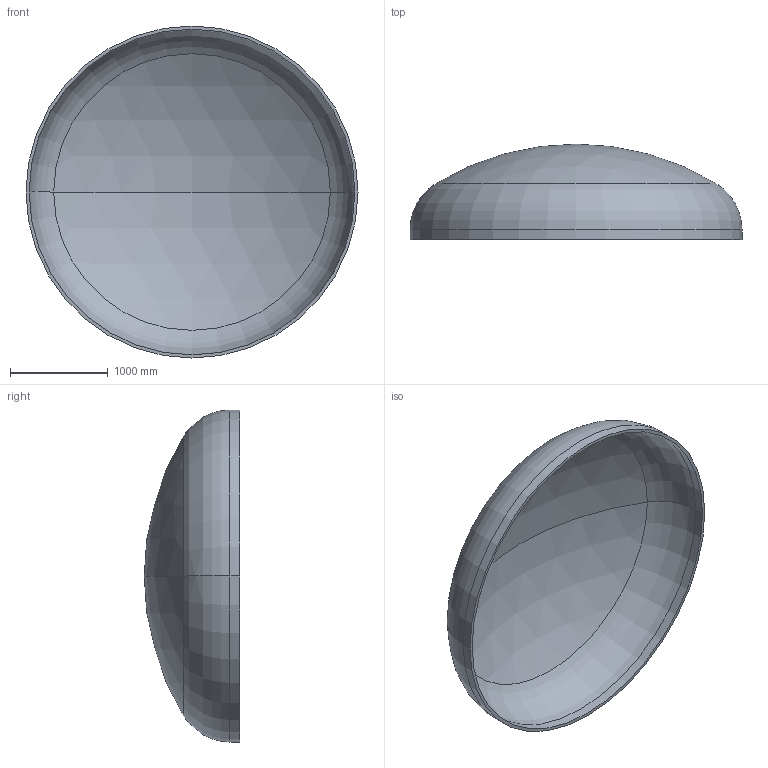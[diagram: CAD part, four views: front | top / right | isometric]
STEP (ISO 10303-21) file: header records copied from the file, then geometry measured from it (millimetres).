
FILE_DESCRIPTION (( 'STEP AP203' ), '1' );
FILE_NAME ('DIN 28013 Korbbogenform_-_Boden DIN 28013 - 3400 x 100 - I - s=32.step', '2016-07-01T19:23:57', ( '' ), ( '' ), 'SwSTEP 2.0', 'SolidWorks 2013', '' );
FILE_SCHEMA (( 'CONFIG_CONTROL_DESIGN' ));
Length unit declared in the file: millimetre
Products named in the file (1): DIN 28013 Korbbogenform_-_Boden DIN 28013 - 3400 x 100 - I - s=32
Bounding box: 3400 x 978.08 x 3400 mm (x, y, z)
Volume: 431476226.6 mm3; surface area: 27307987.1 mm2
Topology: 1 solids, 1 shells, 13 faces, 24 edges, 14 vertices
Faces by surface type: torus 4, cylinder 4, sphere 4, plane 1
Entity records: 407 total; most frequent: DIRECTION 72, CARTESIAN_POINT 52, ORIENTED_EDGE 48, AXIS2_PLACEMENT_3D 34, EDGE_CURVE 24, CIRCLE 20, VERTEX_POINT 14, EDGE_LOOP 14
